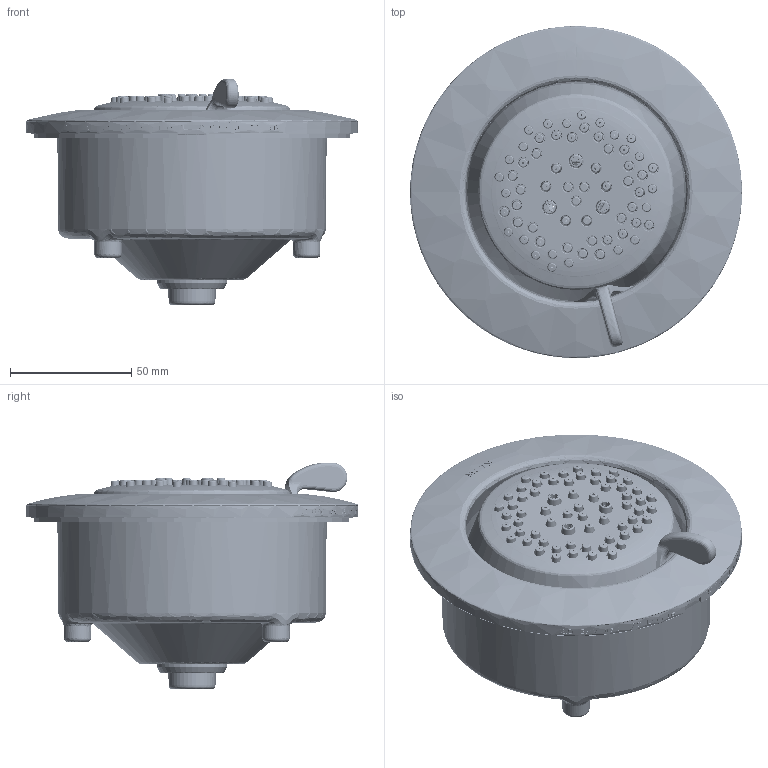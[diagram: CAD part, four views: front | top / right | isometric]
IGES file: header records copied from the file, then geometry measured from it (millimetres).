
Start section: SolidWorks IGES file using analytic representation for surfaces
Global section: file name: W:\mzhang7\7124\TS1422\sku_ts1422series_igs.IGS; native system: SolidWorks 2023; preprocessor: SolidWorks 2023; author: mzhang7; date: 250305.154500; units: inch
Bounding box: 136.88 x 136.84 x 93.46 mm (x, y, z)
Volume: 217892.7 mm3; surface area: 172113.7 mm2
Topology: 7 solids, 7 shells, 6726 faces, 17151 edges, 10294 vertices
Faces by surface type: revolution 2868, bspline 2062, plane 1796
